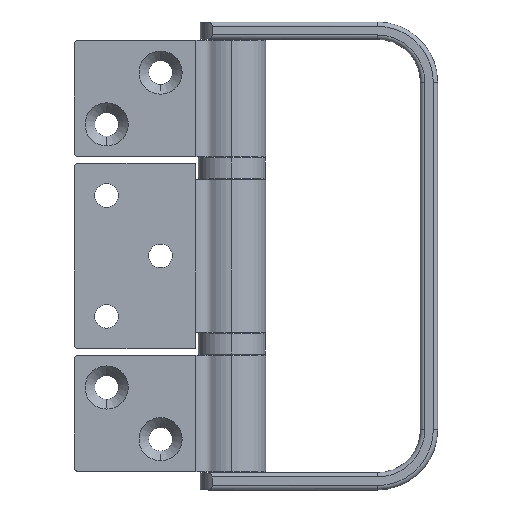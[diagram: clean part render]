
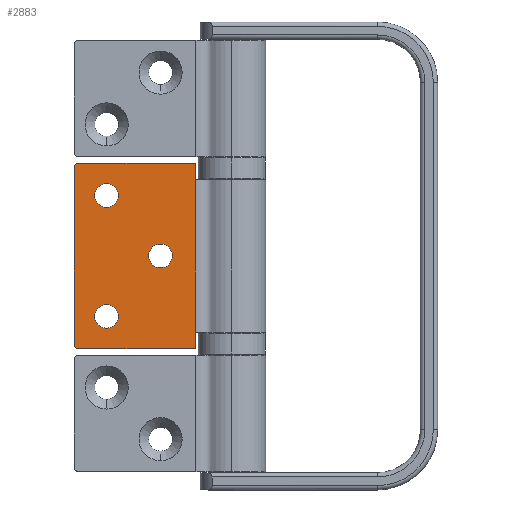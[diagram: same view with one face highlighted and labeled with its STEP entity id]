
A CAD part, top view. The second image highlights one B-rep face of the part: STEP entity #2883.
In plain terms, the highlighted planar face has unit normal (0, 0, 1) as drawn and (-1, 0, 0) by its records, which use the part's own axes.
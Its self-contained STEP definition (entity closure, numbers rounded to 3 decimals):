
#11 = DIRECTION ( 'NONE',  ( 0., 0., 1. ) ) ;
#47 = FACE_BOUND ( 'NONE', #4077, .T. ) ;
#96 = EDGE_CURVE ( 'NONE', #3519, #1801, #1684, .T. ) ;
#104 = DIRECTION ( 'NONE',  ( 0., 1., 0. ) ) ;
#107 = DIRECTION ( 'NONE',  ( 0., 1., 0. ) ) ;
#117 = CARTESIAN_POINT ( 'NONE',  ( -9.1, 36.5, 1. ) ) ;
#128 = CARTESIAN_POINT ( 'NONE',  ( -9.1, 29., 7.5 ) ) ;
#231 = CARTESIAN_POINT ( 'NONE',  ( -9.1, 13.75, 21.5 ) ) ;
#276 = CIRCLE ( 'NONE', #2758, 2.75 ) ;
#282 = EDGE_CURVE ( 'NONE', #2572, #893, #2424, .T. ) ;
#327 = CARTESIAN_POINT ( 'NONE',  ( -9.1, 31.75, 35.5 ) ) ;
#351 = DIRECTION ( 'NONE',  ( -1., 0., 0. ) ) ;
#362 = EDGE_CURVE ( 'NONE', #1801, #3519, #687, .T. ) ;
#368 = LINE ( 'NONE', #3122, #1117 ) ;
#392 = ORIENTED_EDGE ( 'NONE', *, *, #3683, .T. ) ;
#406 = CIRCLE ( 'NONE', #2256, 1. ) ;
#501 = CARTESIAN_POINT ( 'NONE',  ( -9.1, 36.5, 43. ) ) ;
#565 = CARTESIAN_POINT ( 'NONE',  ( -9.1, 8.303, 43. ) ) ;
#629 = DIRECTION ( 'NONE',  ( 0., 0., 1. ) ) ;
#647 = FACE_BOUND ( 'NONE', #3929, .T. ) ;
#658 = ORIENTED_EDGE ( 'NONE', *, *, #362, .T. ) ;
#666 = EDGE_CURVE ( 'NONE', #1708, #4241, #406, .T. ) ;
#677 = EDGE_CURVE ( 'NONE', #3100, #893, #368, .T. ) ;
#687 = CIRCLE ( 'NONE', #2954, 2.75 ) ;
#713 = ORIENTED_EDGE ( 'NONE', *, *, #677, .T. ) ;
#729 = DIRECTION ( 'NONE',  ( 0., 1., 0. ) ) ;
#893 = VERTEX_POINT ( 'NONE', #2899 ) ;
#924 = DIRECTION ( 'NONE',  ( 0., 0., 1. ) ) ;
#1001 = PLANE ( 'NONE',  #1551 ) ;
#1043 = EDGE_CURVE ( 'NONE', #1237, #1085, #4265, .T. ) ;
#1051 = EDGE_CURVE ( 'NONE', #1085, #3100, #1630, .T. ) ;
#1055 = EDGE_CURVE ( 'NONE', #2760, #3471, #2656, .T. ) ;
#1057 = ORIENTED_EDGE ( 'NONE', *, *, #282, .F. ) ;
#1085 = VERTEX_POINT ( 'NONE', #3963 ) ;
#1117 = VECTOR ( 'NONE', #11, 1000. ) ;
#1128 = CARTESIAN_POINT ( 'NONE',  ( -9.1, 35.5, 42. ) ) ;
#1147 = CARTESIAN_POINT ( 'NONE',  ( -9.1, 29., 7.5 ) ) ;
#1150 = DIRECTION ( 'NONE',  ( 1., 0., 0. ) ) ;
#1170 = DIRECTION ( 'NONE',  ( 1., 0., 0. ) ) ;
#1192 = DIRECTION ( 'NONE',  ( 0., 1., 0. ) ) ;
#1202 = VECTOR ( 'NONE', #924, 1000. ) ;
#1237 = VERTEX_POINT ( 'NONE', #3720 ) ;
#1266 = DIRECTION ( 'NONE',  ( 0., -1., 0. ) ) ;
#1272 = ORIENTED_EDGE ( 'NONE', *, *, #666, .T. ) ;
#1273 = VECTOR ( 'NONE', #1966, 1000. ) ;
#1294 = EDGE_CURVE ( 'NONE', #1448, #3389, #276, .T. ) ;
#1308 = VECTOR ( 'NONE', #1266, 1000. ) ;
#1374 = ORIENTED_EDGE ( 'NONE', *, *, #2100, .T. ) ;
#1383 = FACE_OUTER_BOUND ( 'NONE', #3532, .T. ) ;
#1413 = CARTESIAN_POINT ( 'NONE',  ( -9.1, 29., 35.5 ) ) ;
#1434 = DIRECTION ( 'NONE',  ( 1., 0., 0. ) ) ;
#1448 = VERTEX_POINT ( 'NONE', #231 ) ;
#1467 = ORIENTED_EDGE ( 'NONE', *, *, #1294, .T. ) ;
#1483 = DIRECTION ( 'NONE',  ( 0., 0., -1. ) ) ;
#1551 = AXIS2_PLACEMENT_3D ( 'NONE', #4066, #2408, #2360 ) ;
#1554 = VERTEX_POINT ( 'NONE', #1687 ) ;
#1563 = CARTESIAN_POINT ( 'NONE',  ( -9.1, 36.5, 39.2 ) ) ;
#1582 = AXIS2_PLACEMENT_3D ( 'NONE', #1147, #1170, #104 ) ;
#1630 = LINE ( 'NONE', #1563, #1273 ) ;
#1676 = LINE ( 'NONE', #2331, #1308 ) ;
#1684 = CIRCLE ( 'NONE', #1901, 2.75 ) ;
#1687 = CARTESIAN_POINT ( 'NONE',  ( -9.1, 36.5, 42. ) ) ;
#1708 = VERTEX_POINT ( 'NONE', #117 ) ;
#1766 = VECTOR ( 'NONE', #3624, 1000. ) ;
#1801 = VERTEX_POINT ( 'NONE', #2021 ) ;
#1847 = EDGE_CURVE ( 'NONE', #3471, #1237, #1676, .T. ) ;
#1855 = DIRECTION ( 'NONE',  ( 1., 0., 0. ) ) ;
#1901 = AXIS2_PLACEMENT_3D ( 'NONE', #1413, #1434, #2700 ) ;
#1966 = DIRECTION ( 'NONE',  ( 0., 1., 0. ) ) ;
#1969 = CARTESIAN_POINT ( 'NONE',  ( -9.1, 19.25, 21.5 ) ) ;
#1976 = CARTESIAN_POINT ( 'NONE',  ( -9.1, 35.5, 0. ) ) ;
#1980 = ORIENTED_EDGE ( 'NONE', *, *, #2937, .T. ) ;
#2021 = CARTESIAN_POINT ( 'NONE',  ( -9.1, 26.25, 35.5 ) ) ;
#2042 = CARTESIAN_POINT ( 'NONE',  ( -9.1, 35.5, 1. ) ) ;
#2084 = DIRECTION ( 'NONE',  ( 0., 1., 0. ) ) ;
#2091 = DIRECTION ( 'NONE',  ( 0., -1., 0. ) ) ;
#2100 = EDGE_CURVE ( 'NONE', #3463, #3864, #2936, .T. ) ;
#2113 = EDGE_CURVE ( 'NONE', #1554, #1708, #4147, .T. ) ;
#2147 = CARTESIAN_POINT ( 'NONE',  ( -9.1, 16.5, 21.5 ) ) ;
#2164 = AXIS2_PLACEMENT_3D ( 'NONE', #128, #1150, #107 ) ;
#2167 = VECTOR ( 'NONE', #1483, 1000. ) ;
#2216 = EDGE_CURVE ( 'NONE', #2572, #1554, #2584, .T. ) ;
#2240 = DIRECTION ( 'NONE',  ( -1., 0., 0. ) ) ;
#2256 = AXIS2_PLACEMENT_3D ( 'NONE', #2042, #351, #2084 ) ;
#2279 = CARTESIAN_POINT ( 'NONE',  ( -9.1, 8.4, 0. ) ) ;
#2319 = CARTESIAN_POINT ( 'NONE',  ( -9.1, 26.25, 7.5 ) ) ;
#2331 = CARTESIAN_POINT ( 'NONE',  ( -9.1, 36.5, 3.8 ) ) ;
#2354 = CARTESIAN_POINT ( 'NONE',  ( -9.1, 8.4, 39.2 ) ) ;
#2360 = DIRECTION ( 'NONE',  ( 0., 1., 0. ) ) ;
#2400 = ORIENTED_EDGE ( 'NONE', *, *, #96, .T. ) ;
#2408 = DIRECTION ( 'NONE',  ( 1., 0., 0. ) ) ;
#2424 = LINE ( 'NONE', #3042, #2613 ) ;
#2478 = VECTOR ( 'NONE', #629, 1000. ) ;
#2512 = ORIENTED_EDGE ( 'NONE', *, *, #1055, .T. ) ;
#2531 = ORIENTED_EDGE ( 'NONE', *, *, #1051, .T. ) ;
#2572 = VERTEX_POINT ( 'NONE', #2834 ) ;
#2584 = CIRCLE ( 'NONE', #3702, 1. ) ;
#2610 = CARTESIAN_POINT ( 'NONE',  ( -9.1, 8.4, 43. ) ) ;
#2613 = VECTOR ( 'NONE', #2091, 1000. ) ;
#2656 = LINE ( 'NONE', #2610, #1202 ) ;
#2700 = DIRECTION ( 'NONE',  ( 0., 1., 0. ) ) ;
#2703 = CARTESIAN_POINT ( 'NONE',  ( -9.1, 31.75, 7.5 ) ) ;
#2711 = EDGE_LOOP ( 'NONE', ( #2400, #658 ) ) ;
#2722 = AXIS2_PLACEMENT_3D ( 'NONE', #4182, #1855, #1192 ) ;
#2758 = AXIS2_PLACEMENT_3D ( 'NONE', #2147, #4138, #3814 ) ;
#2760 = VERTEX_POINT ( 'NONE', #2279 ) ;
#2834 = CARTESIAN_POINT ( 'NONE',  ( -9.1, 35.5, 43. ) ) ;
#2883 = ADVANCED_FACE ( 'NONE', ( #47, #647, #3365, #1383 ), #1001, .F. ) ;
#2899 = CARTESIAN_POINT ( 'NONE',  ( -9.1, 8.4, 43. ) ) ;
#2936 = CIRCLE ( 'NONE', #2164, 2.75 ) ;
#2937 = EDGE_CURVE ( 'NONE', #4241, #2760, #4257, .T. ) ;
#2954 = AXIS2_PLACEMENT_3D ( 'NONE', #4062, #3037, #729 ) ;
#3028 = ORIENTED_EDGE ( 'NONE', *, *, #3645, .T. ) ;
#3037 = DIRECTION ( 'NONE',  ( 1., 0., 0. ) ) ;
#3042 = CARTESIAN_POINT ( 'NONE',  ( -9.1, 36.5, 43. ) ) ;
#3100 = VERTEX_POINT ( 'NONE', #2354 ) ;
#3122 = CARTESIAN_POINT ( 'NONE',  ( -9.1, 8.4, 43. ) ) ;
#3271 = ORIENTED_EDGE ( 'NONE', *, *, #1043, .T. ) ;
#3365 = FACE_BOUND ( 'NONE', #2711, .T. ) ;
#3389 = VERTEX_POINT ( 'NONE', #1969 ) ;
#3463 = VERTEX_POINT ( 'NONE', #2703 ) ;
#3471 = VERTEX_POINT ( 'NONE', #4104 ) ;
#3488 = CIRCLE ( 'NONE', #2722, 2.75 ) ;
#3519 = VERTEX_POINT ( 'NONE', #327 ) ;
#3532 = EDGE_LOOP ( 'NONE', ( #4022, #3271, #2531, #713, #1057, #3917, #3706, #1272, #1980, #2512 ) ) ;
#3624 = DIRECTION ( 'NONE',  ( 0., -1., 0. ) ) ;
#3645 = EDGE_CURVE ( 'NONE', #3389, #1448, #3488, .T. ) ;
#3683 = EDGE_CURVE ( 'NONE', #3864, #3463, #4323, .T. ) ;
#3702 = AXIS2_PLACEMENT_3D ( 'NONE', #1128, #2240, #4206 ) ;
#3706 = ORIENTED_EDGE ( 'NONE', *, *, #2113, .T. ) ;
#3720 = CARTESIAN_POINT ( 'NONE',  ( -9.1, 8.303, 3.8 ) ) ;
#3814 = DIRECTION ( 'NONE',  ( 0., 1., 0. ) ) ;
#3864 = VERTEX_POINT ( 'NONE', #2319 ) ;
#3917 = ORIENTED_EDGE ( 'NONE', *, *, #2216, .T. ) ;
#3929 = EDGE_LOOP ( 'NONE', ( #1374, #392 ) ) ;
#3954 = CARTESIAN_POINT ( 'NONE',  ( -9.1, 36.5, 0. ) ) ;
#3963 = CARTESIAN_POINT ( 'NONE',  ( -9.1, 8.303, 39.2 ) ) ;
#4022 = ORIENTED_EDGE ( 'NONE', *, *, #1847, .T. ) ;
#4062 = CARTESIAN_POINT ( 'NONE',  ( -9.1, 29., 35.5 ) ) ;
#4066 = CARTESIAN_POINT ( 'NONE',  ( -9.1, 36.5, 43. ) ) ;
#4077 = EDGE_LOOP ( 'NONE', ( #3028, #1467 ) ) ;
#4104 = CARTESIAN_POINT ( 'NONE',  ( -9.1, 8.4, 3.8 ) ) ;
#4138 = DIRECTION ( 'NONE',  ( 1., 0., 0. ) ) ;
#4147 = LINE ( 'NONE', #501, #2167 ) ;
#4182 = CARTESIAN_POINT ( 'NONE',  ( -9.1, 16.5, 21.5 ) ) ;
#4206 = DIRECTION ( 'NONE',  ( 0., 1., 0. ) ) ;
#4241 = VERTEX_POINT ( 'NONE', #1976 ) ;
#4257 = LINE ( 'NONE', #3954, #1766 ) ;
#4265 = LINE ( 'NONE', #565, #2478 ) ;
#4323 = CIRCLE ( 'NONE', #1582, 2.75 ) ;
